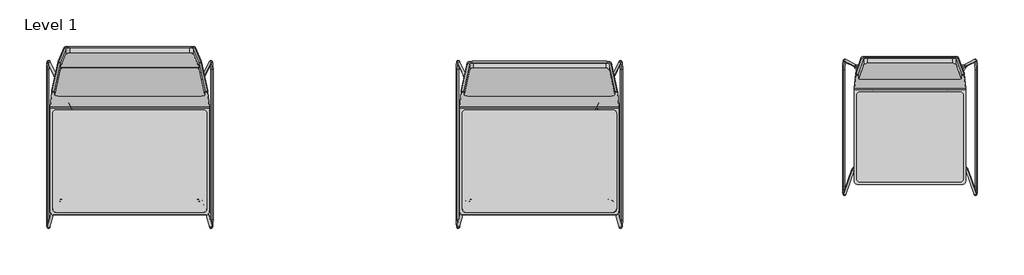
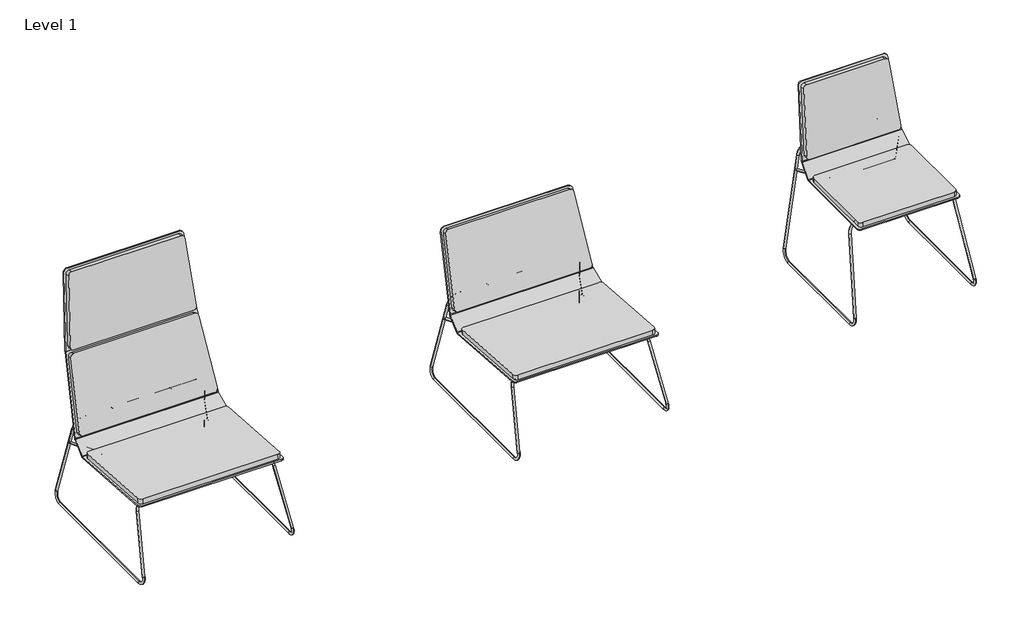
# One storey, incomplete: 3 furniture elements.
"""IFC4 building model written with IfcOpenShell, lengths in millimetres."""

from ifc_helpers import new_model, si_unit, origin, place, context, project, spatial, transform, mapped, element, save
from components import furniture_161f1afd, furniture_4c82a0b8, furniture_996d12b4

model = new_model("IFC4")

# Units and contexts
model_context = context("Model", 3, world=origin())
ifc_project = project(units=[si_unit("LENGTHUNIT", "METRE", prefix="MILLI")], contexts=[model_context])

# Site, building, storey
site = spatial("IfcSite", under=ifc_project)
building = spatial("IfcBuilding", under=site)
storey = spatial("IfcBuildingStorey", under=building, Name="Level 1", Elevation=0.0)

# Furniture
placement = place(None, origin())
furniture_shape = furniture_161f1afd(model_context)
element("IfcFurniture", 1, ObjectType="Tom Collection_D : Tom Collection_D", at=placement, inside=storey, context=model_context, shape_type="MappedRepresentation", body=[
    mapped(furniture_shape, transform((-434.0152909, 449.7518914, 0.0), x_axis=(1.0, 0.0, 0.0), y_axis=(0.0, 1.0, 0.0), z_axis=(0.0, 0.0, 1.0))),
])
furniture_2_shape = furniture_4c82a0b8(model_context)
element("IfcFurniture", 2, ObjectType="Tom Collection_A : Tom Collection_A", at=placement, inside=storey, context=model_context, shape_type="MappedRepresentation", body=[
    mapped(furniture_2_shape, transform((-3720.3476999, 449.7518914, 0.0), x_axis=(1.0, 0.0, 0.0), y_axis=(0.0, 1.0, 0.0), z_axis=(0.0, 0.0, 1.0))),
])
furniture_3_shape = furniture_996d12b4(model_context)
element("IfcFurniture", 3, ObjectType="Tom Collection_B : Tom Collection_B", at=placement, inside=storey, context=model_context, shape_type="MappedRepresentation", body=[
    mapped(furniture_3_shape, transform((-1995.0231852, 449.7518914, 0.0), x_axis=(1.0, 0.0, 0.0), y_axis=(0.0, 1.0, 0.0), z_axis=(0.0, 0.0, 1.0))),
])

save(model, "model.ifc")
